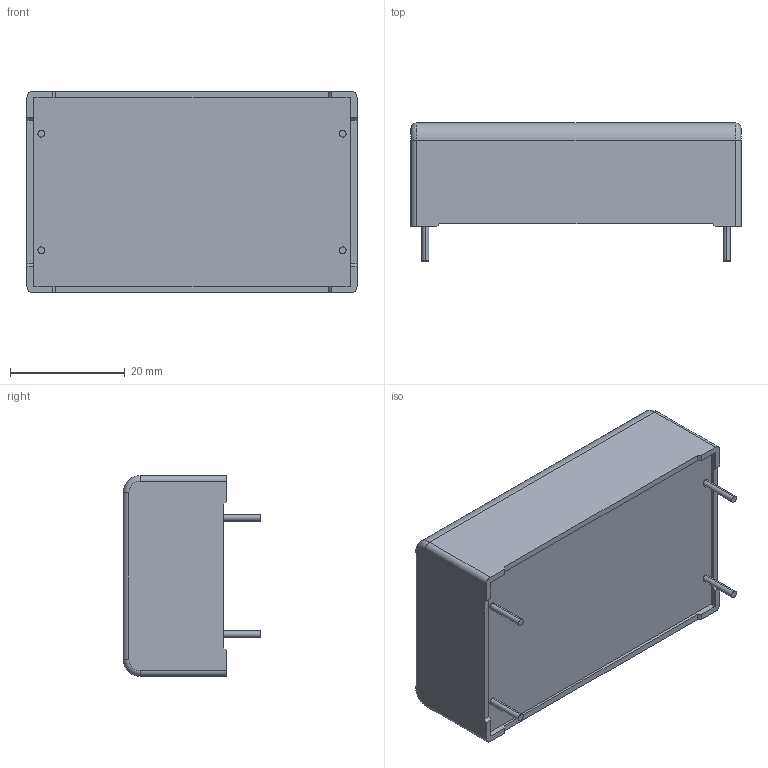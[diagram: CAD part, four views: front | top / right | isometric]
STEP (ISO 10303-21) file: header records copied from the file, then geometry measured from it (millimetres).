
FILE_DESCRIPTION (( 'STEP AP203' ), '1' );
FILE_NAME ('DC_Link_35x18x57.5_4pins20.3.step', '2017-04-03T16:00:14', ( 'work' ), ( 'Hewlett-Packard Company' ), 'SwSTEP 2.0', 'SolidWorks 2017', '' );
FILE_SCHEMA (( 'CONFIG_CONTROL_DESIGN' ));
Length unit declared in the file: millimetre
Products named in the file (1): DC_Link_35x18x57.5_4pins20.3
Bounding box: 57.5 x 24 x 35 mm (x, y, z)
Volume: 34110.7 mm3; surface area: 7275.7 mm2
Topology: 1 solids, 1 shells, 122 faces, 319 edges, 210 vertices
Faces by surface type: plane 82, cylinder 20, bspline 16, torus 4
Entity records: 4492 total; most frequent: CARTESIAN_POINT 1476, ORIENTED_EDGE 638, DIRECTION 545, EDGE_CURVE 319, LINE 243, VECTOR 243, VERTEX_POINT 210, AXIS2_PLACEMENT_3D 151
